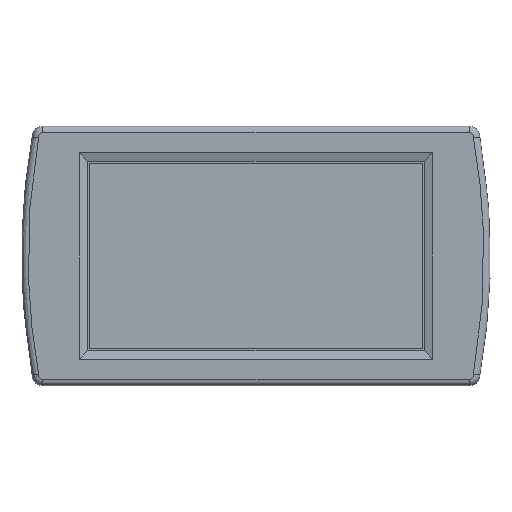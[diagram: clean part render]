
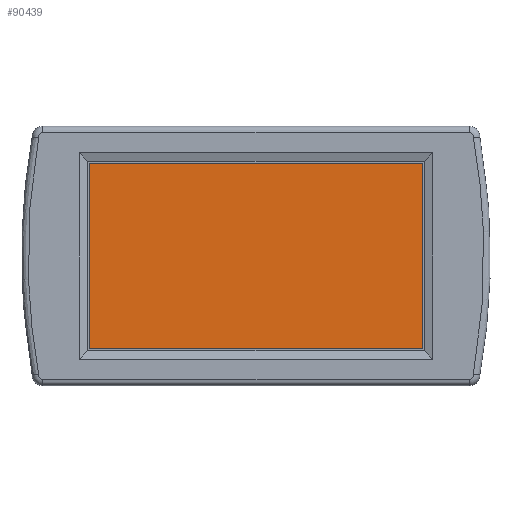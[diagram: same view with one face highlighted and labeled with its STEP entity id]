
A CAD part, front view. The second image highlights one B-rep face of the part: STEP entity #90439.
In plain terms, the highlighted planar face has unit normal (0, -1, 0).
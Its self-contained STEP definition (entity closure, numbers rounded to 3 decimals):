
#375 = CARTESIAN_POINT ( 'NONE',  ( -77., 0.6, -42.97 ) ) ;
#2266 = CARTESIAN_POINT ( 'NONE',  ( -77., 0.6, 42.95 ) ) ;
#4713 = CARTESIAN_POINT ( 'NONE',  ( 77.08, 0.6, -42.97 ) ) ;
#19186 = EDGE_CURVE ( 'NONE', #92619, #63363, #84157, .T. ) ;
#30991 = DIRECTION ( 'NONE',  ( 0., 0., -1. ) ) ;
#31156 = FACE_OUTER_BOUND ( 'NONE', #112555, .T. ) ;
#61382 = LINE ( 'NONE', #2266, #170850 ) ;
#63363 = VERTEX_POINT ( 'NONE', #82893 ) ;
#63668 = EDGE_CURVE ( 'NONE', #97126, #163111, #61382, .T. ) ;
#69162 = DIRECTION ( 'NONE',  ( 0., -1., 0. ) ) ;
#79661 = AXIS2_PLACEMENT_3D ( 'NONE', #154722, #69162, #169058 ) ;
#82893 = CARTESIAN_POINT ( 'NONE',  ( 77.08, 0.6, 42.95 ) ) ;
#83652 = DIRECTION ( 'NONE',  ( -1., 0., 0. ) ) ;
#84157 = LINE ( 'NONE', #172409, #117675 ) ;
#89839 = ORIENTED_EDGE ( 'NONE', *, *, #19186, .T. ) ;
#90439 = ADVANCED_FACE ( 'NONE', ( #31156 ), #97365, .T. ) ;
#92619 = VERTEX_POINT ( 'NONE', #4713 ) ;
#95600 = DIRECTION ( 'NONE',  ( 0., 0., 1. ) ) ;
#97126 = VERTEX_POINT ( 'NONE', #129820 ) ;
#97365 = PLANE ( 'NONE',  #79661 ) ;
#107209 = LINE ( 'NONE', #154781, #145140 ) ;
#109394 = LINE ( 'NONE', #129593, #142881 ) ;
#112555 = EDGE_LOOP ( 'NONE', ( #167660, #173088, #89839, #180292 ) ) ;
#117675 = VECTOR ( 'NONE', #95600, 1000. ) ;
#129593 = CARTESIAN_POINT ( 'NONE',  ( -77., 0.6, -42.97 ) ) ;
#129820 = CARTESIAN_POINT ( 'NONE',  ( -77., 0.6, 42.95 ) ) ;
#138814 = EDGE_CURVE ( 'NONE', #63363, #97126, #107209, .T. ) ;
#139357 = EDGE_CURVE ( 'NONE', #163111, #92619, #109394, .T. ) ;
#142881 = VECTOR ( 'NONE', #143887, 1000. ) ;
#143887 = DIRECTION ( 'NONE',  ( 1., 0., 0. ) ) ;
#145140 = VECTOR ( 'NONE', #83652, 1000. ) ;
#154722 = CARTESIAN_POINT ( 'NONE',  ( -1.45, 0.6, 2.25 ) ) ;
#154781 = CARTESIAN_POINT ( 'NONE',  ( 77.08, 0.6, 42.95 ) ) ;
#163111 = VERTEX_POINT ( 'NONE', #375 ) ;
#167660 = ORIENTED_EDGE ( 'NONE', *, *, #63668, .T. ) ;
#169058 = DIRECTION ( 'NONE',  ( -1., 0., 0. ) ) ;
#170850 = VECTOR ( 'NONE', #30991, 1000. ) ;
#172409 = CARTESIAN_POINT ( 'NONE',  ( 77.08, 0.6, -42.97 ) ) ;
#173088 = ORIENTED_EDGE ( 'NONE', *, *, #139357, .T. ) ;
#180292 = ORIENTED_EDGE ( 'NONE', *, *, #138814, .T. ) ;
